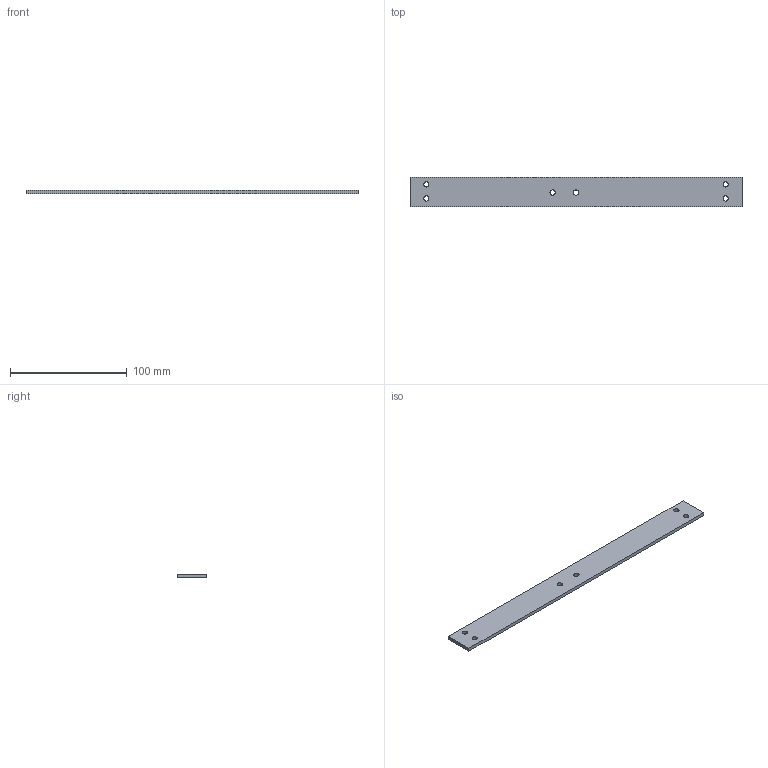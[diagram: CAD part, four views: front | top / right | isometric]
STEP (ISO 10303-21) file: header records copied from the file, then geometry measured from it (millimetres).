
FILE_DESCRIPTION(('Open CASCADE Model'),'2;1');
FILE_NAME('Open CASCADE Shape Model','2026-10-15T18:22:09',('Author'),( 'Open CASCADE'),'Open CASCADE STEP processor 7.9','Open CASCADE 7.9' ,'Unknown');
FILE_SCHEMA(('AUTOMOTIVE_DESIGN { 1 0 10303 214 1 1 1 1 }'));
Length unit declared in the file: millimetre
Products named in the file (1): Open CASCADE STEP translator 7.9 23
Bounding box: 284 x 25 x 3 mm (x, y, z)
Volume: 21013.7 mm3; surface area: 16117.6 mm2
Topology: 1 solids, 1 shells, 12 faces, 30 edges, 20 vertices
Faces by surface type: plane 6, cylinder 6
Full cylindrical faces by diameter (mm): 4.5 x6
Entity records: 790 total; most frequent: DIRECTION 128, CARTESIAN_POINT 123, LINE 66, VECTOR 66, ORIENTED_EDGE 60, PCURVE 60, DEFINITIONAL_REPRESENTATION 60, EDGE_CURVE 30
